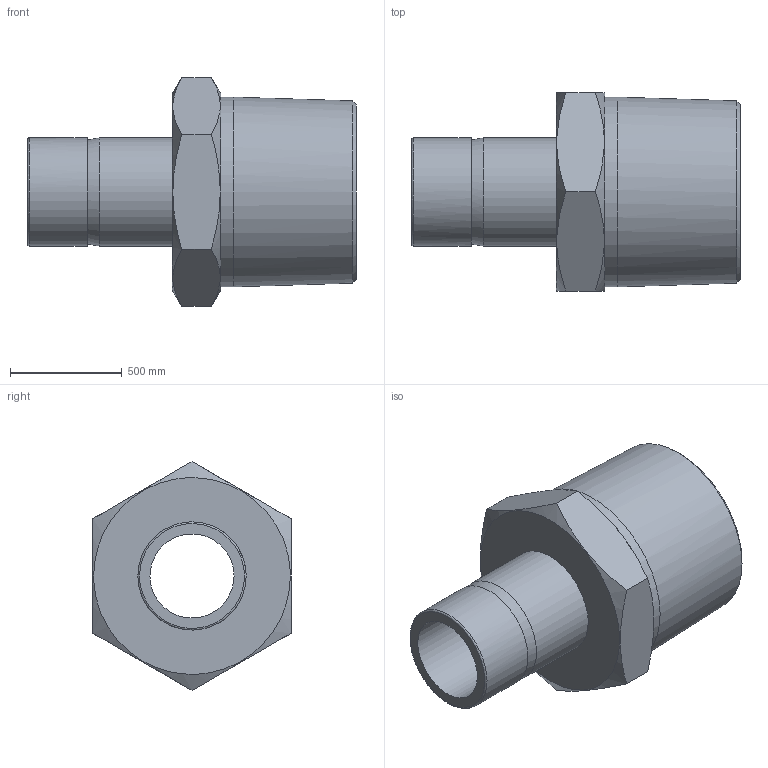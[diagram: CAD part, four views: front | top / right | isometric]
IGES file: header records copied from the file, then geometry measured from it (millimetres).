
Global section: file name: SMA-12-16N; native system: Autodesk Inventor 2016; preprocessor: unknown; author: DESIGNPC2; date: 20151221.105130; units: millimetre
Bounding box: 1470.66 x 886.46 x 1023.6 mm (x, y, z)
Volume: 430940237.1 mm3; surface area: 5969983.6 mm2
Topology: 1 solids, 1 shells, 22 faces, 62 edges, 45 vertices
Faces by surface type: bspline 22
